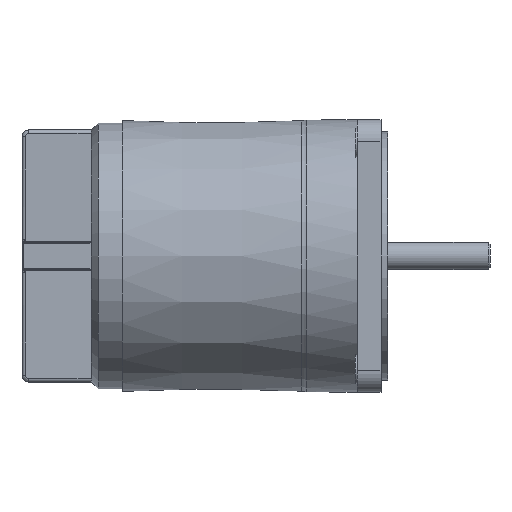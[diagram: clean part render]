
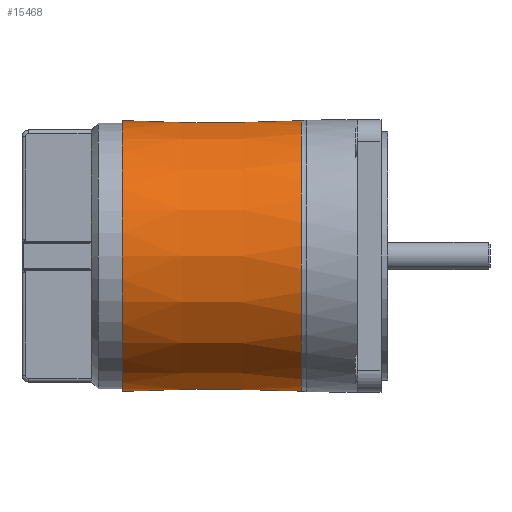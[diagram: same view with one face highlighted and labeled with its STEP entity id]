
A CAD part, front view. The second image highlights one B-rep face of the part: STEP entity #15468.
In plain terms, the highlighted conical face has half-angle 0.073 degrees and reference radius 39.784 mm.
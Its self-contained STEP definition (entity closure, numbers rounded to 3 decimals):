
#23=(
BOUNDED_CURVE()
B_SPLINE_CURVE(2,(#25473,#25474,#25475),.UNSPECIFIED.,.F.,.F.)
B_SPLINE_CURVE_WITH_KNOTS((3,3),(0.114,3.908),
 .UNSPECIFIED.)
CURVE()
GEOMETRIC_REPRESENTATION_ITEM()
RATIONAL_B_SPLINE_CURVE((1.,1.,1.))
REPRESENTATION_ITEM('')
);
#95=B_SPLINE_CURVE_WITH_KNOTS('',3,(#25410,#25411,#25412,#25413,#25414,
#25415,#25416,#25417,#25418,#25419,#25420,#25421),.UNSPECIFIED.,.F.,.F.,
(4,2,2,2,2,4),(-0.001,0.,0.027,0.048,
0.073,0.103),.UNSPECIFIED.);
#108=B_SPLINE_CURVE_WITH_KNOTS('',3,(#25645,#25646,#25647,#25648),
 .UNSPECIFIED.,.F.,.F.,(4,4),(5.75,5.8),
 .UNSPECIFIED.);
#109=B_SPLINE_CURVE_WITH_KNOTS('',3,(#25650,#25651,#25652,#25653),
 .UNSPECIFIED.,.F.,.F.,(4,4),(-5.75,-1.842),
 .UNSPECIFIED.);
#335=FACE_BOUND('',#2996,.T.);
#384=CONICAL_SURFACE('',#16813,39.784,0.073);
#1227=CIRCLE('',#16787,39.767);
#1237=CIRCLE('',#16809,39.817);
#1238=CIRCLE('',#16811,39.817);
#1240=CIRCLE('',#16814,39.75);
#2036=FACE_OUTER_BOUND('',#2995,.T.);
#2995=EDGE_LOOP('',(#12446,#12447,#12448,#12449,#12450,#12451,#12452));
#2996=EDGE_LOOP('',(#12453));
#6835=VERTEX_POINT('',#25408);
#6836=VERTEX_POINT('',#25409);
#6837=VERTEX_POINT('',#25434);
#6843=VERTEX_POINT('',#25466);
#6855=VERTEX_POINT('',#25644);
#6856=VERTEX_POINT('',#25649);
#6863=VERTEX_POINT('',#25756);
#6865=VERTEX_POINT('',#25771);
#8737=EDGE_CURVE('',#6835,#6836,#95,.T.);
#8740=EDGE_CURVE('',#6835,#6837,#1227,.T.);
#8749=EDGE_CURVE('',#6836,#6843,#23,.T.);
#8768=EDGE_CURVE('',#6855,#6837,#108,.T.);
#8769=EDGE_CURVE('',#6855,#6856,#109,.T.);
#8784=EDGE_CURVE('',#6856,#6863,#1237,.T.);
#8787=EDGE_CURVE('',#6863,#6843,#1238,.T.);
#8789=EDGE_CURVE('',#6865,#6865,#1240,.T.);
#12446=ORIENTED_EDGE('',*,*,#8737,.T.);
#12447=ORIENTED_EDGE('',*,*,#8749,.T.);
#12448=ORIENTED_EDGE('',*,*,#8787,.F.);
#12449=ORIENTED_EDGE('',*,*,#8784,.F.);
#12450=ORIENTED_EDGE('',*,*,#8769,.F.);
#12451=ORIENTED_EDGE('',*,*,#8768,.T.);
#12452=ORIENTED_EDGE('',*,*,#8740,.F.);
#12453=ORIENTED_EDGE('',*,*,#8789,.T.);
#15468=ADVANCED_FACE('',(#2036,#335),#384,.T.);
#16787=AXIS2_PLACEMENT_3D('',#25435,#20324,#20325);
#16809=AXIS2_PLACEMENT_3D('',#25757,#20384,#20385);
#16811=AXIS2_PLACEMENT_3D('',#25768,#20388,#20389);
#16813=AXIS2_PLACEMENT_3D('',#25770,#20392,#20393);
#16814=AXIS2_PLACEMENT_3D('',#25772,#20394,#20395);
#20324=DIRECTION('center_axis',(1.,0.,0.));
#20325=DIRECTION('ref_axis',(0.,1.,0.01));
#20384=DIRECTION('center_axis',(1.,0.,0.));
#20385=DIRECTION('ref_axis',(0.,1.,0.));
#20388=DIRECTION('center_axis',(1.,0.,0.));
#20389=DIRECTION('ref_axis',(0.,1.,0.));
#20392=DIRECTION('center_axis',(1.,0.,0.));
#20393=DIRECTION('ref_axis',(0.,1.,0.));
#20394=DIRECTION('center_axis',(1.,0.,0.));
#20395=DIRECTION('ref_axis',(0.,1.,0.));
#25408=CARTESIAN_POINT('',(22.001,28.641,-27.587));
#25409=CARTESIAN_POINT('',(23.636,28.041,-28.2));
#25410=CARTESIAN_POINT('Ctrl Pts',(22.001,28.641,-27.587));
#25411=CARTESIAN_POINT('Ctrl Pts',(22.002,28.64,-27.589));
#25412=CARTESIAN_POINT('Ctrl Pts',(22.003,28.638,-27.59));
#25413=CARTESIAN_POINT('Ctrl Pts',(22.044,28.581,-27.65));
#25414=CARTESIAN_POINT('Ctrl Pts',(22.115,28.498,-27.736));
#25415=CARTESIAN_POINT('Ctrl Pts',(22.343,28.338,-27.9));
#25416=CARTESIAN_POINT('Ctrl Pts',(22.457,28.278,-27.96));
#25417=CARTESIAN_POINT('Ctrl Pts',(22.724,28.17,-28.07));
#25418=CARTESIAN_POINT('Ctrl Pts',(22.88,28.126,-28.114));
#25419=CARTESIAN_POINT('Ctrl Pts',(23.234,28.058,-28.182));
#25420=CARTESIAN_POINT('Ctrl Pts',(23.435,28.041,-28.2));
#25421=CARTESIAN_POINT('Ctrl Pts',(23.636,28.041,-28.2));
#25434=CARTESIAN_POINT('',(22.001,27.47,28.754));
#25435=CARTESIAN_POINT('Origin',(22.001,0.,
0.));
#25466=CARTESIAN_POINT('',(61.576,28.11,-28.2));
#25473=CARTESIAN_POINT('Ctrl Pts',(23.636,28.041,-28.2));
#25474=CARTESIAN_POINT('Ctrl Pts',(42.583,28.076,-28.2));
#25475=CARTESIAN_POINT('Ctrl Pts',(61.576,28.11,-28.2));
#25644=CARTESIAN_POINT('',(22.5,27.471,28.754));
#25645=CARTESIAN_POINT('Ctrl Pts',(22.5,27.471,28.754));
#25646=CARTESIAN_POINT('Ctrl Pts',(22.334,27.471,28.754));
#25647=CARTESIAN_POINT('Ctrl Pts',(22.167,27.47,28.754));
#25648=CARTESIAN_POINT('Ctrl Pts',(22.001,27.47,28.754));
#25649=CARTESIAN_POINT('',(61.576,27.542,28.756));
#25650=CARTESIAN_POINT('Ctrl Pts',(22.5,27.471,28.754));
#25651=CARTESIAN_POINT('Ctrl Pts',(35.525,27.495,28.754));
#25652=CARTESIAN_POINT('Ctrl Pts',(48.55,27.518,28.755));
#25653=CARTESIAN_POINT('Ctrl Pts',(61.576,27.542,28.756));
#25756=CARTESIAN_POINT('',(61.576,27.541,28.756));
#25757=CARTESIAN_POINT('Origin',(61.576,0.,
0.));
#25768=CARTESIAN_POINT('Origin',(61.576,0.,
0.));
#25770=CARTESIAN_POINT('Origin',(35.288,0.,
0.));
#25771=CARTESIAN_POINT('',(9.,39.75,0.));
#25772=CARTESIAN_POINT('Origin',(9.,0.,
0.));
